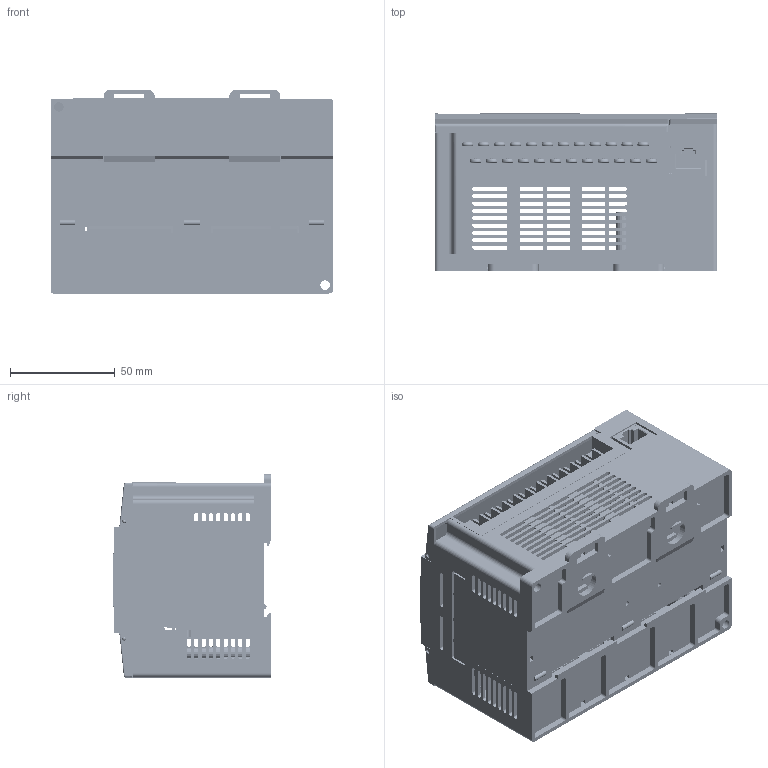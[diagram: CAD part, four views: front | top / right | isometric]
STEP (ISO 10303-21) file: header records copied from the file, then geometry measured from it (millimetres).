
FILE_DESCRIPTION (( 'STEP AP214' ), '1' );
FILE_NAME ('PLC-FB1616R0202.STEP', '2023-07-11T19:55:48', ( '' ), ( '' ), 'SwSTEP 2.0', 'SolidWorks 2019', '' );
FILE_SCHEMA (( 'AUTOMOTIVE_DESIGN' ));
Length unit declared in the file: inch
Products named in the file (17): USB mini_A.STEP; HP-762 T2A_24p.STEP; plate_SB32MDT_Z1.STEP; EXP cover_____.STEP; Bolt___________M3_6_BNT21039.STEP; HP-762 T2A-24P-1.STEP; BP32_Upper Case_Z2.STEP; Assy_BP32_CPU.STEP; ______ cover_32_____.STEP; Din rail ______.STEP; BP SW_Center.STEP; Assy_BP32_IO.STEP; BP32_Bottom Case_Z2.STEP; HP-762 T2A-24P.STEP; Assy_Block 32_A.STEP; RT7.STEP; PLC-FB1616R0202
Assembly tree (66 placements, depth 5):
  PLC-FB1616R0202
    Assy_Block 32_A.STEP
      Assy_BP32_CPU.STEP
        BP SW_Center.STEP
      Assy_BP32_IO.STEP
        HP-762 T2A-24P.STEP
          HP-762 T2A_24p.STEP
          Bolt___________M3_6_BNT21039.STEP  x24
        HP-762 T2A-24P-1.STEP
          HP-762 T2A_24p.STEP
          Bolt___________M3_6_BNT21039.STEP  x24
        RT7.STEP
        USB mini_A.STEP
      BP32_Upper Case_Z2.STEP
      BP32_Bottom Case_Z2.STEP
      EXP cover_____.STEP
      ______ cover_32_____.STEP  x2
      plate_SB32MDT_Z1.STEP
      Din rail ______.STEP  x2
Bounding box: 135 x 75.16 x 97.35 mm (x, y, z)
Volume: 164596.4 mm3; surface area: 179947.2 mm2
Topology: 67 solids, 67 shells, 5476 faces, 15445 edges, 10116 vertices
Faces by surface type: plane 2932, cylinder 2068, torus 203, bspline 151, sphere 112, cone 10
Entity records: 93548 total; most frequent: CARTESIAN_POINT 18060, ORIENTED_EDGE 15508, DIRECTION 13998, EDGE_CURVE 7754, LINE 6346, VECTOR 6346, VERTEX_POINT 5130, AXIS2_PLACEMENT_3D 3826
